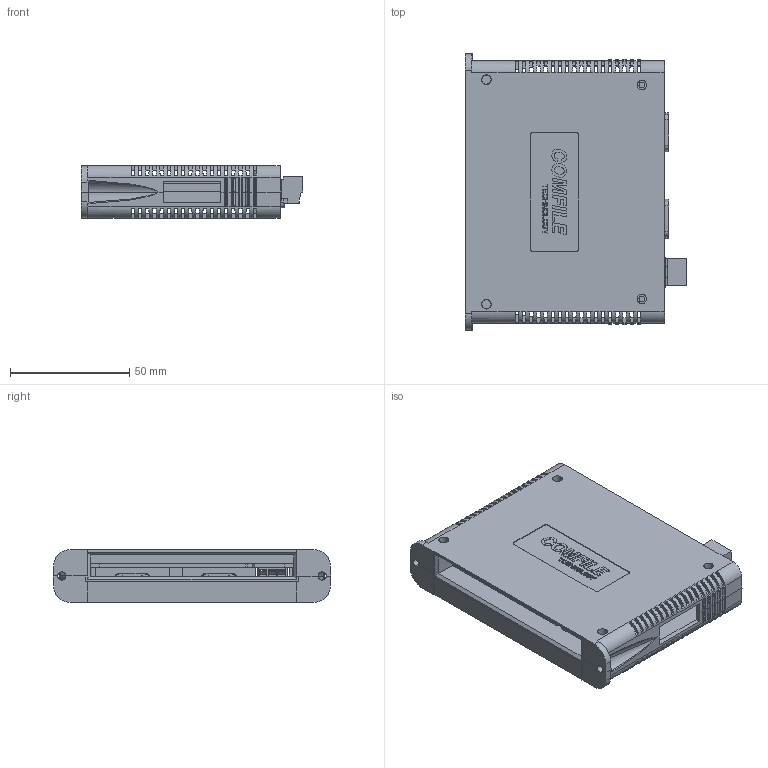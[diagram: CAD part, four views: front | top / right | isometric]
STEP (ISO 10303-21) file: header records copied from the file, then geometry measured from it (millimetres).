
FILE_DESCRIPTION (( 'STEP AP214' ), '1' );
FILE_NAME ('DP-COMM2_ASM.STEP', '2016-05-30T02:44:53', ( 'Registered User' ), ( 'Microsoft Corporation' ), 'SwSTEP 2.0', 'SolidWorks 2014', '' );
FILE_SCHEMA (( 'AUTOMOTIVE_DESIGN' ));
Length unit declared in the file: millimetre
Products named in the file (1): DP-COMM2_ASM
Bounding box: 92.9 x 116 x 22 mm (x, y, z)
Surface area: 60922.9 mm2 (no closed solid volume)
Topology: 0 solids, 24 shells, 1082 faces, 3961 edges, 2722 vertices
Faces by surface type: plane 796, cylinder 246, bspline 14, cone 12, torus 8, sphere 6
Entity records: 54006 total; most frequent: CARTESIAN_POINT 10580, ORIENTED_EDGE 6243, DIRECTION 6021, EDGE_CURVE 3957, VECTOR 2971, LINE 2971, VERTEX_POINT 2720, AXIS2_PLACEMENT_3D 1525
